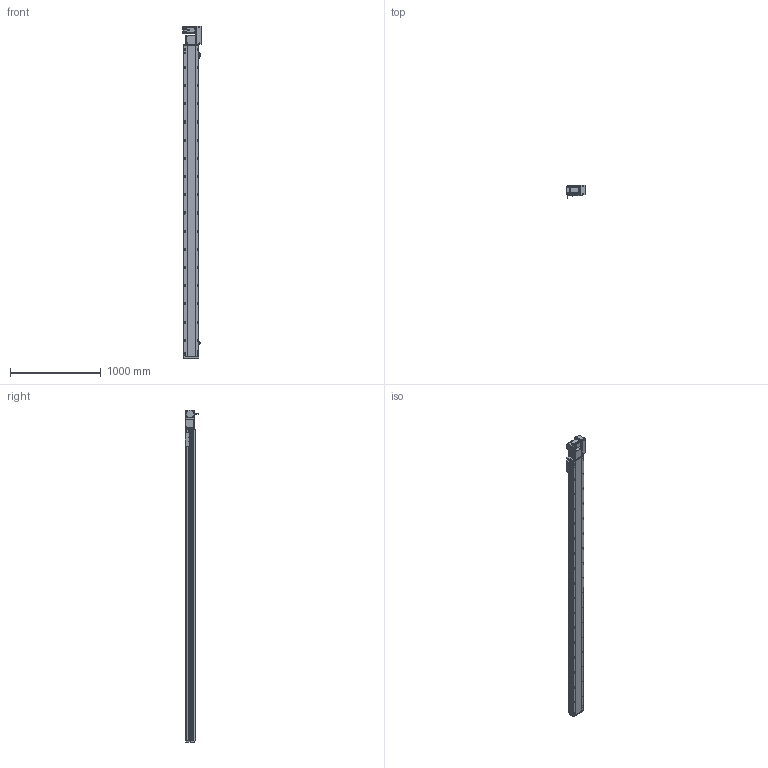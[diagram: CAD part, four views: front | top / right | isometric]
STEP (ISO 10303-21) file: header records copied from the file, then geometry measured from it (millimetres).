
FILE_DESCRIPTION (( 'STEP AP214' ), '1' );
FILE_NAME ('RTB17S-XX-3150-R-M75-C4.STEP', '2025-12-12T01:51:44', ( '' ), ( '' ), 'SwSTEP 2.0', 'SolidWorks 2018', '' );
FILE_SCHEMA (( 'AUTOMOTIVE_DESIGN' ));
Length unit declared in the file: millimetre
Products named in the file (15): RTB17S-R-々湍釱蚾饜-750W^RTB17S-XX-XX-R-M75-C4; RTB17S-L-007奻裔^RTB17S-XX-XX-R-M75-C4; RTB17S-XX-3150-R-M75-C4; RTB22S-GY-017P^RTB17S-R-々湍釱蚾饜-750W_RTB17S-XX-XX-R-M75-C4; RTB22S-GY-005P^RTB17S-R-々湍釱蚾饜-750W_RTB17S-XX-XX-R-M75-C4; RTB17S-L-014-T20-P75--々湍釱^RTB17S-R-々湍釱蚾饜-750W_RTB17S-XX-XX-R-M75-C4; RTB17S-L-004-賑釱^RTB17S-賑釱_RTB17S-XX-XX-R-M75-C4; 750W萇儂^RTB17S-XX-XX-R-M75-C4; RTB17S-L-001-耜醱啣^RTB17S-XX-XX-R-M75-C4; RTB17S-賑釱^RTB17S-XX-XX-R-M75-C4; RTH13-BL-012覜茼え俋离^RTB17S-賑釱_RTB17S-XX-XX-R-M75-C4; RTB22S-GY-018P^RTB17S-R-々湍釱蚾饜-750W_RTB17S-XX-XX-R-M75-C4; EE672^RTB17S-XX-XX-R-M75-C4; RTB17-R-011菁釱^RTB17S-XX-XX-R-M75-C4; RTB22S-GY-008-M75--萇儂啣^RTB17S-R-々湍釱蚾饜-750W_RTB17S-XX-XX-R-M75-C4
Assembly tree (17 placements, depth 3):
  RTB17S-XX-3150-R-M75-C4
    RTB17-R-011菁釱^RTB17S-XX-XX-R-M75-C4
    EE672^RTB17S-XX-XX-R-M75-C4  x3
    RTB17S-L-001-耜醱啣^RTB17S-XX-XX-R-M75-C4
    RTB17S-賑釱^RTB17S-XX-XX-R-M75-C4
      RTB17S-L-004-賑釱^RTB17S-賑釱_RTB17S-XX-XX-R-M75-C4
      RTH13-BL-012覜茼え俋离^RTB17S-賑釱_RTB17S-XX-XX-R-M75-C4
    RTB17S-L-007奻裔^RTB17S-XX-XX-R-M75-C4
    750W萇儂^RTB17S-XX-XX-R-M75-C4
    RTB17S-R-々湍釱蚾饜-750W^RTB17S-XX-XX-R-M75-C4
      RTB17S-L-014-T20-P75--々湍釱^RTB17S-R-々湍釱蚾饜-750W_RTB17S-XX-XX-R-M75-C4
      RTB22S-GY-005P^RTB17S-R-々湍釱蚾饜-750W_RTB17S-XX-XX-R-M75-C4
      RTB22S-GY-017P^RTB17S-R-々湍釱蚾饜-750W_RTB17S-XX-XX-R-M75-C4  x2
      RTB22S-GY-008-M75--萇儂啣^RTB17S-R-々湍釱蚾饜-750W_RTB17S-XX-XX-R-M75-C4
      RTB22S-GY-018P^RTB17S-R-々湍釱蚾饜-750W_RTB17S-XX-XX-R-M75-C4
Bounding box: 207.4 x 152.7 x 3649 mm (x, y, z)
Volume: 25641130.6 mm3; surface area: 4711826.9 mm2
Topology: 17 solids, 17 shells, 2265 faces, 6376 edges, 4130 vertices
Faces by surface type: plane 992, cylinder 857, bspline 294, cone 110, sphere 8, torus 4
Entity records: 66550 total; most frequent: CARTESIAN_POINT 19840, ORIENTED_EDGE 9596, DIRECTION 8852, EDGE_CURVE 4798, AXIS2_PLACEMENT_3D 3150, VERTEX_POINT 3134, LINE 2552, VECTOR 2552
